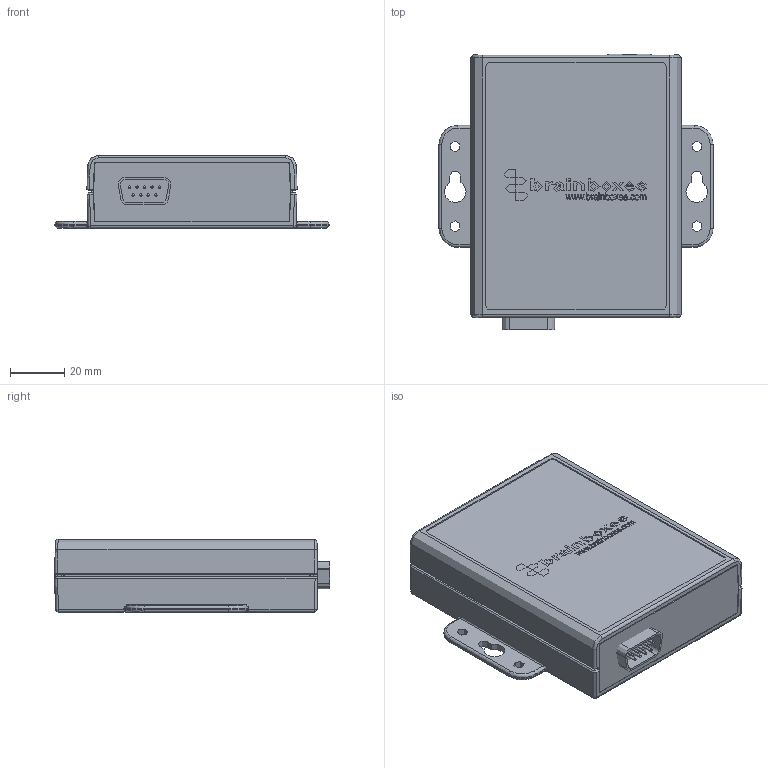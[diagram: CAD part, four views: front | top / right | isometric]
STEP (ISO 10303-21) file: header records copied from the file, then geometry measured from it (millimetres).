
FILE_DESCRIPTION(('STEP AP214'),'1');
FILE_NAME('ES-446 Cased PCB 3D Step.step','2021-01-19T12:57:12',(' '),(' '),'Spatial InterOp 3D','XD3DPlugin XRACreate',' ');
FILE_SCHEMA(('automotive_design'));
Length unit declared in the file: millimetre
Products named in the file (44): Submodel-Input_S\00MAGJACKILED.xtd; 00MAGJACKILED; Submodel-00MAGJACKILED_part_simplified_MAGJACK_LEDS; DesignRootModel; Submodel-Input_S\SMD_ELEC_8X10.xtd; SMD_ELEC_8X10; Submodel-75470UF6V3_part_simplified_SMD_ELEC_8X10; Submodel-Input_S\80AG9703-2BR.xtd; 80AG9703-2BR; Submodel-80AG97032BR_part_simplified_AG9700; Submodel-Input_S\SMD_ELEC_D.xtd; SMD_ELEC_D; Submodel-7547UF50V_part_simplified_SMD_ELEC_D; Submodel-Input_S\6610UH5A5.xtd; 6610UH5A5; Submodel-6610UH5A5_part_simplified_SRR1260; Submodel-Input_S\SMC.xtd; SMC; Submodel-55TZ1K5SMC36V_part_simplified_SMC; Submodel-Input_S\00MRD09.xtd; 00MRD09; Submodel-00MRD09_part_simplified_DB9RA_slash_M; Submodel-Input_S\40SMTBUTTON_0.xtd; 40SMTBUTTON_0; Submodel-40SMTBUTTON_part_simplified_SMTBUTTON; Submodel-Input_S\50HEA4X2.xtd; 50HEA4X2; Submodel-50HEA4X2_part_simplified_H100MIL2X4; uid__9223372036854779115; Submodel-AssyDefn_28; 00ESUSCASELIDNOHOLES.step; Submodel-AssyDefn_27; CamdenEndPanel.sat; Submodel-AssyDefn_26; BrainboxesLogo.sat; Submodel-AssyDefn_24; 00ESUSCASEBASE.sat; Submodel-noModelForPart_MOUNTINGHOLE_2132796670; placementOutline; Submodel-MOUNTINGHOLE_2132796670_part_MOUNTINGHOLE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
Assembly tree (48 placements, depth 5):
  ES-446 Cased PCB 3D Step
    DesignRootModel
      Submodel-00MAGJACKILED_part_simplified_MAGJACK_LEDS
        Submodel-Input_S\00MAGJACKILED.xtd
          00MAGJACKILED
      Submodel-75470UF6V3_part_simplified_SMD_ELEC_8X10
        Submodel-Input_S\SMD_ELEC_8X10.xtd
          SMD_ELEC_8X10
      Submodel-80AG97032BR_part_simplified_AG9700
        Submodel-Input_S\80AG9703-2BR.xtd
          80AG9703-2BR
      Submodel-7547UF50V_part_simplified_SMD_ELEC_D
        Submodel-Input_S\SMD_ELEC_D.xtd
          SMD_ELEC_D
      Submodel-6610UH5A5_part_simplified_SRR1260
        Submodel-Input_S\6610UH5A5.xtd
          6610UH5A5
      Submodel-55TZ1K5SMC36V_part_simplified_SMC  x3
        Submodel-Input_S\SMC.xtd
          SMC
      Submodel-00MRD09_part_simplified_DB9RA_slash_M
        Submodel-Input_S\00MRD09.xtd
          00MRD09
      Submodel-40SMTBUTTON_part_simplified_SMTBUTTON
        Submodel-Input_S\40SMTBUTTON_0.xtd
          40SMTBUTTON_0
      Submodel-50HEA4X2_part_simplified_H100MIL2X4
        Submodel-Input_S\50HEA4X2.xtd
          50HEA4X2
      uid__9223372036854779115
      Submodel-AssyDefn_28
        00ESUSCASELIDNOHOLES.step
      Submodel-AssyDefn_27  x2
        CamdenEndPanel.sat
      Submodel-AssyDefn_26  x2
        BrainboxesLogo.sat
      Submodel-AssyDefn_24
        00ESUSCASEBASE.sat
      Submodel-MOUNTINGHOLE_2132796670_part_MOUNTINGHOLE  x2
        Submodel-noModelForPart_MOUNTINGHOLE_2132796670
          placementOutline
      Submodel-00HEC3650_part_HEC3650
        Submodel-ImportedPartModels\00HEC3650_0.step
          00HEC3650_0.xtd
Bounding box: 101 x 101.41 x 27.1 mm (x, y, z)
Volume: 77051.6 mm3; surface area: 84529.3 mm2
Topology: 132 solids, 132 shells, 5501 faces, 14603 edges, 9387 vertices
Faces by surface type: plane 4000, cylinder 755, bspline 638, torus 60, sphere 35, cone 13
Full cylindrical faces by diameter (mm): 0.6 x2
Entity records: 189476 total; most frequent: CARTESIAN_POINT 33927, ORIENTED_EDGE 24902, DIRECTION 22737, EDGE_CURVE 12451, LINE 10107, VECTOR 10107, VERTEX_POINT 7979, AXIS2_PLACEMENT_3D 6315
